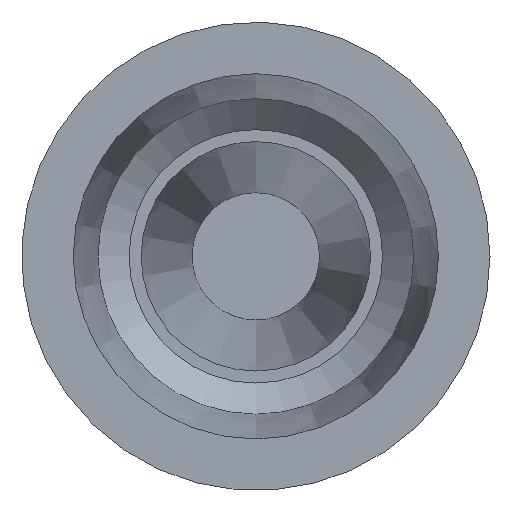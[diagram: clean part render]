
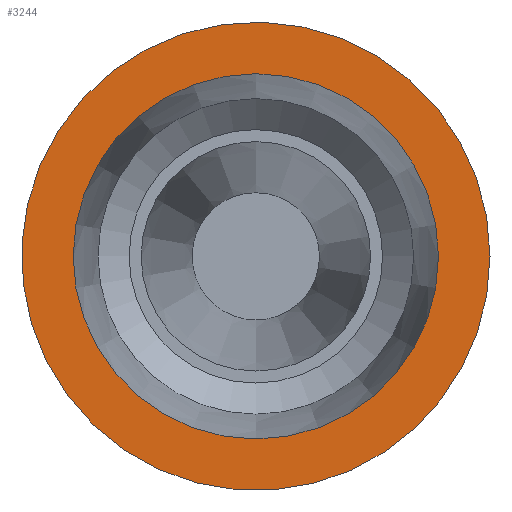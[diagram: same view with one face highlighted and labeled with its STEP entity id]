
A CAD part, front view. The second image highlights one B-rep face of the part: STEP entity #3244.
In plain terms, the highlighted planar face has unit normal (0, -1, 0).
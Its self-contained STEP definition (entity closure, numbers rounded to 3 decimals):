
#320=CIRCLE('',#3581,5.);
#321=CIRCLE('',#3583,3.9);
#875=ORIENTED_EDGE('',*,*,#1927,.T.);
#876=ORIENTED_EDGE('',*,*,#1926,.T.);
#1926=EDGE_CURVE('',#2452,#2452,#320,.T.);
#1927=EDGE_CURVE('',#2453,#2453,#321,.T.);
#2452=VERTEX_POINT('',#5849);
#2453=VERTEX_POINT('',#5852);
#2713=EDGE_LOOP('',(#875));
#2714=EDGE_LOOP('',(#876));
#2967=FACE_BOUND('',#2713,.T.);
#2968=FACE_BOUND('',#2714,.T.);
#3201=PLANE('',#3582);
#3244=ADVANCED_FACE('',(#2967,#2968),#3201,.T.);
#3581=AXIS2_PLACEMENT_3D('',#5848,#4169,#4170);
#3582=AXIS2_PLACEMENT_3D('',#5850,#4171,#4172);
#3583=AXIS2_PLACEMENT_3D('',#5851,#4173,#4174);
#4169=DIRECTION('',(0.,-1.,0.));
#4170=DIRECTION('',(1.,0.,0.));
#4171=DIRECTION('',(0.,-1.,0.));
#4172=DIRECTION('',(0.,0.,-1.));
#4173=DIRECTION('',(0.,1.,0.));
#4174=DIRECTION('',(0.,0.,1.));
#5848=CARTESIAN_POINT('',(0.,0.,0.));
#5849=CARTESIAN_POINT('',(5.,0.,0.));
#5850=CARTESIAN_POINT('',(0.,0.,0.));
#5851=CARTESIAN_POINT('',(0.,0.,0.));
#5852=CARTESIAN_POINT('',(0.,0.,3.9));
